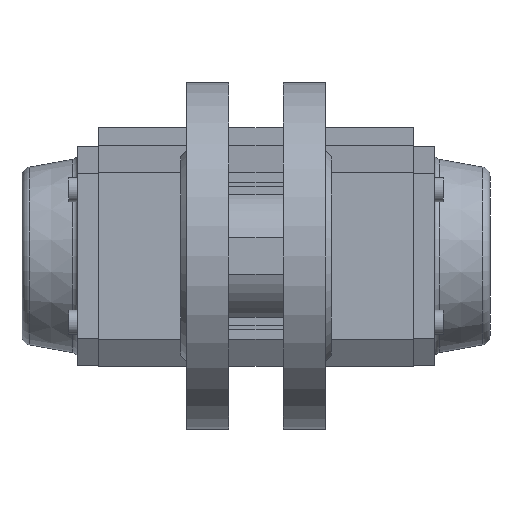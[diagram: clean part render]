
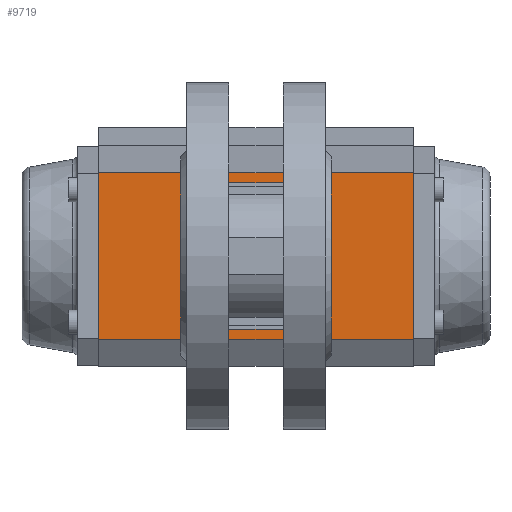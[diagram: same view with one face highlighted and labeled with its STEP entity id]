
A CAD part, front view. The second image highlights one B-rep face of the part: STEP entity #9719.
In plain terms, the highlighted planar face has unit normal (0, -1, 0).
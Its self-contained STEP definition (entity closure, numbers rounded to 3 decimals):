
#739 = CARTESIAN_POINT ( 'NONE',  ( 14.849, -41.5, -14.849 ) ) ;
#740 = DIRECTION ( 'NONE',  ( 0., -1., 0. ) ) ;
#741 = DIRECTION ( 'NONE',  ( 0., 0., -1. ) ) ;
#775 = CARTESIAN_POINT ( 'NONE',  ( 14.849, -41.5, 14.849 ) ) ;
#776 = DIRECTION ( 'NONE',  ( 0., -1., 0. ) ) ;
#777 = DIRECTION ( 'NONE',  ( 0., 0., -1. ) ) ;
#857 = CARTESIAN_POINT ( 'NONE',  ( -14.849, -41.5, 14.849 ) ) ;
#858 = DIRECTION ( 'NONE',  ( 0., -1., 0. ) ) ;
#859 = DIRECTION ( 'NONE',  ( 0., 0., -1. ) ) ;
#872 = CARTESIAN_POINT ( 'NONE',  ( -14.849, -41.5, -14.849 ) ) ;
#873 = DIRECTION ( 'NONE',  ( 0., -1., 0. ) ) ;
#874 = DIRECTION ( 'NONE',  ( 0., 0., -1. ) ) ;
#1139 = CARTESIAN_POINT ( 'NONE',  ( 0., -41.5, -15. ) ) ;
#1155 = CARTESIAN_POINT ( 'NONE',  ( 14.849, -41.5, 12.749 ) ) ;
#1156 = CARTESIAN_POINT ( 'NONE',  ( 14.849, -41.5, -12.749 ) ) ;
#1202 = CARTESIAN_POINT ( 'NONE',  ( -14.849, -41.5, -12.749 ) ) ;
#1584 = ORIENTED_EDGE ( 'NONE', *, *, #6363, .T. ) ;
#1585 = ORIENTED_EDGE ( 'NONE', *, *, #6362, .F. ) ;
#1586 = ORIENTED_EDGE ( 'NONE', *, *, #6361, .F. ) ;
#1587 = ORIENTED_EDGE ( 'NONE', *, *, #6354, .T. ) ;
#1588 = ORIENTED_EDGE ( 'NONE', *, *, #9173, .F. ) ;
#1589 = ORIENTED_EDGE ( 'NONE', *, *, #6360, .F. ) ;
#1590 = ORIENTED_EDGE ( 'NONE', *, *, #9314, .F. ) ;
#1591 = ORIENTED_EDGE ( 'NONE', *, *, #6359, .F. ) ;
#1592 = ORIENTED_EDGE ( 'NONE', *, *, #9319, .F. ) ;
#1593 = ORIENTED_EDGE ( 'NONE', *, *, #6358, .F. ) ;
#1594 = ORIENTED_EDGE ( 'NONE', *, *, #9275, .F. ) ;
#1595 = ORIENTED_EDGE ( 'NONE', *, *, #6357, .F. ) ;
#1596 = ORIENTED_EDGE ( 'NONE', *, *, #9288, .F. ) ;
#1597 = ORIENTED_EDGE ( 'NONE', *, *, #6356, .F. ) ;
#2802 = VERTEX_POINT ( 'NONE', #1139 ) ;
#2818 = VERTEX_POINT ( 'NONE', #1155 ) ;
#2819 = VERTEX_POINT ( 'NONE', #1156 ) ;
#2865 = VERTEX_POINT ( 'NONE', #1202 ) ;
#2973 = VERTEX_POINT ( 'NONE', #10686 ) ;
#2976 = VERTEX_POINT ( 'NONE', #10689 ) ;
#2978 = VERTEX_POINT ( 'NONE', #10691 ) ;
#3624 = FACE_BOUND ( 'NONE', #4525, .T. ) ;
#3625 = FACE_BOUND ( 'NONE', #4526, .T. ) ;
#3626 = FACE_OUTER_BOUND ( 'NONE', #4524, .T. ) ;
#3627 = FACE_BOUND ( 'NONE', #4531, .T. ) ;
#3628 = PLANE ( 'NONE',  #6888 ) ;
#3629 = FACE_BOUND ( 'NONE', #4523, .T. ) ;
#3631 = FACE_BOUND ( 'NONE', #4529, .T. ) ;
#3632 = CARTESIAN_POINT ( 'NONE',  ( -27.5, -41.5, -52. ) ) ;
#3633 = DIRECTION ( 'NONE',  ( 0., -1., 0. ) ) ;
#3634 = DIRECTION ( 'NONE',  ( 0., 0., -1. ) ) ;
#3991 = VERTEX_POINT ( 'NONE', #10787 ) ;
#3994 = VERTEX_POINT ( 'NONE', #10790 ) ;
#3995 = VERTEX_POINT ( 'NONE', #10791 ) ;
#4523 = EDGE_LOOP ( 'NONE', ( #1593, #1592 ) ) ;
#4524 = EDGE_LOOP ( 'NONE', ( #1587, #1586, #1585, #1584 ) ) ;
#4525 = EDGE_LOOP ( 'NONE', ( #1589, #1588 ) ) ;
#4526 = EDGE_LOOP ( 'NONE', ( #1597, #1596 ) ) ;
#4529 = EDGE_LOOP ( 'NONE', ( #1591, #1590 ) ) ;
#4531 = EDGE_LOOP ( 'NONE', ( #1595, #1594 ) ) ;
#4582 = VECTOR ( 'NONE', #7488, 1000. ) ;
#4583 = AXIS2_PLACEMENT_3D ( 'NONE', #7473, #7475, #7477 ) ;
#4584 = VECTOR ( 'NONE', #7494, 1000. ) ;
#4587 = AXIS2_PLACEMENT_3D ( 'NONE', #7463, #7465, #7467 ) ;
#4588 = VECTOR ( 'NONE', #7480, 1000. ) ;
#4589 = AXIS2_PLACEMENT_3D ( 'NONE', #7455, #7457, #7459 ) ;
#4591 = CIRCLE ( 'NONE', #4583, 15. ) ;
#4594 = AXIS2_PLACEMENT_3D ( 'NONE', #7447, #7449, #7451 ) ;
#4595 = CIRCLE ( 'NONE', #4587, 2.1 ) ;
#4596 = AXIS2_PLACEMENT_3D ( 'NONE', #7443, #7444, #7445 ) ;
#4597 = CIRCLE ( 'NONE', #4589, 2.1 ) ;
#4598 = CIRCLE ( 'NONE', #4596, 2.1 ) ;
#4599 = CIRCLE ( 'NONE', #4594, 2.1 ) ;
#4600 = VECTOR ( 'NONE', #7439, 1000. ) ;
#6354 = EDGE_CURVE ( 'NONE', #3994, #7230, #7436, .T. ) ;
#6356 = EDGE_CURVE ( 'NONE', #2818, #2973, #4598, .T. ) ;
#6357 = EDGE_CURVE ( 'NONE', #7231, #2819, #4599, .T. ) ;
#6358 = EDGE_CURVE ( 'NONE', #7199, #2865, #4597, .T. ) ;
#6359 = EDGE_CURVE ( 'NONE', #2978, #2976, #4595, .T. ) ;
#6360 = EDGE_CURVE ( 'NONE', #2802, #7221, #4591, .T. ) ;
#6361 = EDGE_CURVE ( 'NONE', #3991, #7230, #7471, .T. ) ;
#6362 = EDGE_CURVE ( 'NONE', #3995, #3991, #7482, .T. ) ;
#6363 = EDGE_CURVE ( 'NONE', #3995, #3994, #7469, .T. ) ;
#6888 = AXIS2_PLACEMENT_3D ( 'NONE', #3632, #3633, #3634 ) ;
#7199 = VERTEX_POINT ( 'NONE', #7679 ) ;
#7221 = VERTEX_POINT ( 'NONE', #7711 ) ;
#7230 = VERTEX_POINT ( 'NONE', #7720 ) ;
#7231 = VERTEX_POINT ( 'NONE', #7721 ) ;
#7436 = LINE ( 'NONE', #7438, #4600 ) ;
#7437 = CARTESIAN_POINT ( 'NONE',  ( -27.5, -41.5, 52. ) ) ;
#7438 = CARTESIAN_POINT ( 'NONE',  ( 27.5, -41.5, -52. ) ) ;
#7439 = DIRECTION ( 'NONE',  ( 0., 0., 1. ) ) ;
#7443 = CARTESIAN_POINT ( 'NONE',  ( 14.849, -41.5, 14.849 ) ) ;
#7444 = DIRECTION ( 'NONE',  ( 0., -1., 0. ) ) ;
#7445 = DIRECTION ( 'NONE',  ( 0., 0., -1. ) ) ;
#7447 = CARTESIAN_POINT ( 'NONE',  ( 14.849, -41.5, -14.849 ) ) ;
#7449 = DIRECTION ( 'NONE',  ( 0., -1., 0. ) ) ;
#7451 = DIRECTION ( 'NONE',  ( 0., 0., -1. ) ) ;
#7455 = CARTESIAN_POINT ( 'NONE',  ( -14.849, -41.5, -14.849 ) ) ;
#7457 = DIRECTION ( 'NONE',  ( 0., -1., 0. ) ) ;
#7459 = DIRECTION ( 'NONE',  ( 0., 0., -1. ) ) ;
#7463 = CARTESIAN_POINT ( 'NONE',  ( -14.849, -41.5, 14.849 ) ) ;
#7465 = DIRECTION ( 'NONE',  ( 0., -1., 0. ) ) ;
#7467 = DIRECTION ( 'NONE',  ( 0., 0., -1. ) ) ;
#7469 = LINE ( 'NONE', #7490, #4584 ) ;
#7471 = LINE ( 'NONE', #7437, #4588 ) ;
#7473 = CARTESIAN_POINT ( 'NONE',  ( 0., -41.5, 0. ) ) ;
#7475 = DIRECTION ( 'NONE',  ( 0., -1., 0. ) ) ;
#7477 = DIRECTION ( 'NONE',  ( 0., 0., -1. ) ) ;
#7480 = DIRECTION ( 'NONE',  ( 1., 0., 0. ) ) ;
#7482 = LINE ( 'NONE', #7486, #4582 ) ;
#7486 = CARTESIAN_POINT ( 'NONE',  ( -27.5, -41.5, -52. ) ) ;
#7488 = DIRECTION ( 'NONE',  ( 0., 0., 1. ) ) ;
#7490 = CARTESIAN_POINT ( 'NONE',  ( -27.5, -41.5, -52. ) ) ;
#7494 = DIRECTION ( 'NONE',  ( 1., 0., 0. ) ) ;
#7679 = CARTESIAN_POINT ( 'NONE',  ( -14.849, -41.5, -16.949 ) ) ;
#7711 = CARTESIAN_POINT ( 'NONE',  ( 0., -41.5, 15. ) ) ;
#7720 = CARTESIAN_POINT ( 'NONE',  ( 27.5, -41.5, 52. ) ) ;
#7721 = CARTESIAN_POINT ( 'NONE',  ( 14.849, -41.5, -16.949 ) ) ;
#9173 = EDGE_CURVE ( 'NONE', #7221, #2802, #11551, .T. ) ;
#9275 = EDGE_CURVE ( 'NONE', #2819, #7231, #11391, .T. ) ;
#9288 = EDGE_CURVE ( 'NONE', #2973, #2818, #11370, .T. ) ;
#9314 = EDGE_CURVE ( 'NONE', #2976, #2978, #11285, .T. ) ;
#9319 = EDGE_CURVE ( 'NONE', #2865, #7199, #11274, .T. ) ;
#9719 = ADVANCED_FACE ( 'NONE', ( #3625, #3627, #3629, #3631, #3624, #3626 ), #3628, .T. ) ;
#10686 = CARTESIAN_POINT ( 'NONE',  ( 14.849, -41.5, 16.949 ) ) ;
#10689 = CARTESIAN_POINT ( 'NONE',  ( -14.849, -41.5, 16.949 ) ) ;
#10691 = CARTESIAN_POINT ( 'NONE',  ( -14.849, -41.5, 12.749 ) ) ;
#10787 = CARTESIAN_POINT ( 'NONE',  ( -27.5, -41.5, 52. ) ) ;
#10790 = CARTESIAN_POINT ( 'NONE',  ( 27.5, -41.5, -52. ) ) ;
#10791 = CARTESIAN_POINT ( 'NONE',  ( -27.5, -41.5, -52. ) ) ;
#11272 = AXIS2_PLACEMENT_3D ( 'NONE', #872, #873, #874 ) ;
#11274 = CIRCLE ( 'NONE', #11272, 2.1 ) ;
#11281 = AXIS2_PLACEMENT_3D ( 'NONE', #857, #858, #859 ) ;
#11285 = CIRCLE ( 'NONE', #11281, 2.1 ) ;
#11366 = AXIS2_PLACEMENT_3D ( 'NONE', #775, #776, #777 ) ;
#11370 = CIRCLE ( 'NONE', #11366, 2.1 ) ;
#11386 = AXIS2_PLACEMENT_3D ( 'NONE', #739, #740, #741 ) ;
#11391 = CIRCLE ( 'NONE', #11386, 2.1 ) ;
#11549 = AXIS2_PLACEMENT_3D ( 'NONE', #13069, #13070, #13071 ) ;
#11551 = CIRCLE ( 'NONE', #11549, 15. ) ;
#13069 = CARTESIAN_POINT ( 'NONE',  ( 0., -41.5, 0. ) ) ;
#13070 = DIRECTION ( 'NONE',  ( 0., -1., 0. ) ) ;
#13071 = DIRECTION ( 'NONE',  ( 0., 0., -1. ) ) ;
